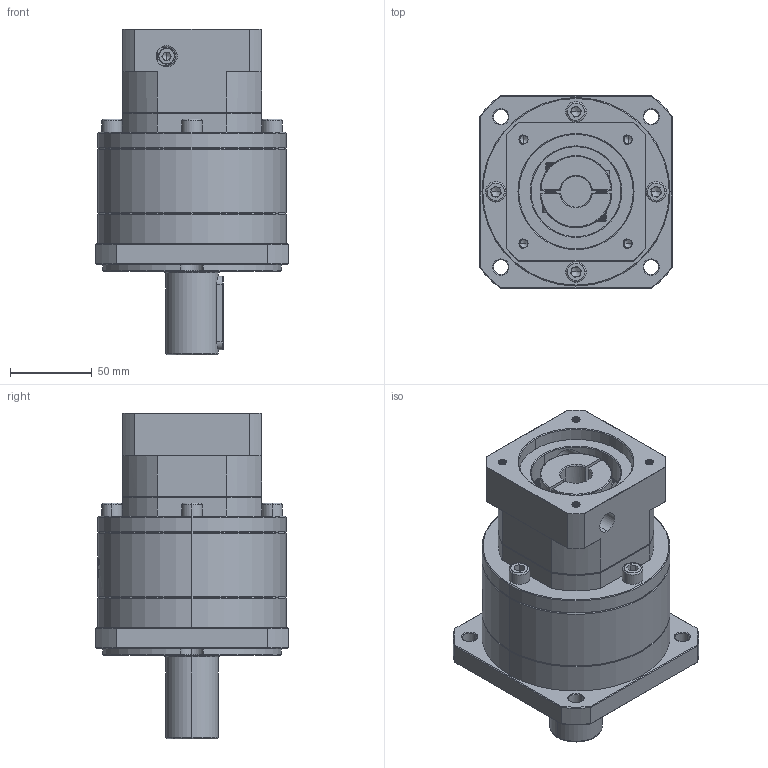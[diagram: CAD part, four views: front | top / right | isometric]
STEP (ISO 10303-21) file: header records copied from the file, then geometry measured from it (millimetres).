
FILE_DESCRIPTION (( 'STEP AP214' ), '1' );
FILE_NAME ('ZF120A-D32-L2-P2-19-70-90-M6.step', '2023-08-27T06:00:04', ( '' ), ( '' ), 'SwSTEP 2.0', 'SolidWorks 2016', '' );
FILE_SCHEMA (( 'AUTOMOTIVE_DESIGN' ));
Length unit declared in the file: millimetre
Products named in the file (1): ZF120A-D32-L2-P2-19-70-90-M6
Bounding box: 118 x 118 x 199 mm (x, y, z)
Volume: 1292310.9 mm3; surface area: 127367 mm2
Topology: 5 solids, 5 shells, 2181 faces, 5830 edges, 3745 vertices
Faces by surface type: plane 1054, bspline 434, cylinder 396, cone 297
Entity records: 120534 total; most frequent: CARTESIAN_POINT 47681, ORIENTED_EDGE 11600, DIRECTION 8248, EDGE_CURVE 5800, VERTEX_POINT 3745, LINE 3080, VECTOR 3080, AXIS2_PLACEMENT_3D 2584
